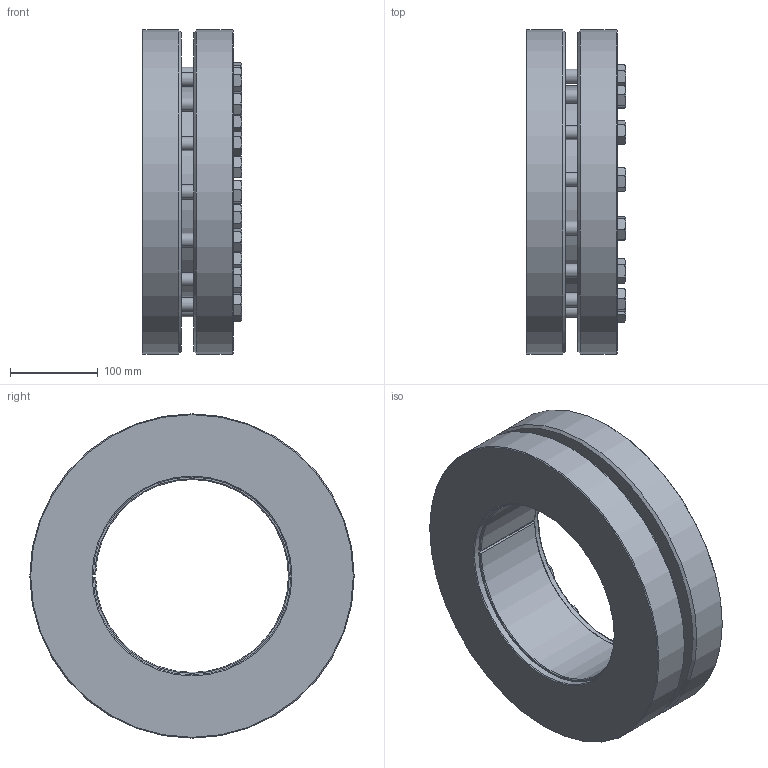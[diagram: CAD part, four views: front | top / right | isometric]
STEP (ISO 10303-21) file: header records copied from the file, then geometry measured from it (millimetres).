
FILE_DESCRIPTION( ( 'Unknown' ), '1' );
FILE_NAME( 'C:/Dokumente und Einstellungen/Sven/Desktop/KBS19 GF/KBS19 - 220 x 370.stp', 'Unknown', ( 'Unknown' ), ( 'Unknown' ), 'XStep 1.0', 'Unknown', ' ' );
FILE_SCHEMA( ( 'automotive_design' ) );
Length unit declared in the file: millimetre
Products named in the file (2): Assem1; ENG-001330
Bounding box: 114 x 370 x 370 mm (x, y, z)
Volume: 12871725.5 mm3; surface area: 925146.9 mm2
Topology: 2 solids, 2 shells, 372 faces, 966 edges, 664 vertices
Faces by surface type: plane 256, cylinder 70, cone 38, torus 8
Full cylindrical faces by diameter (mm): 16 x30, 22.49 x30, 226 x2, 241.9 x2, 370 x4
Entity records: 9866 total; most frequent: CARTESIAN_POINT 1960, DIRECTION 754, ORIENTED_EDGE 754, PRESENTATION_STYLE_ASSIGNMENT 696, COLOUR_RGB 696, STYLED_ITEM 531, CURVE_STYLE 510, DRAUGHTING_PRE_DEFINED_CURVE_FONT 510
